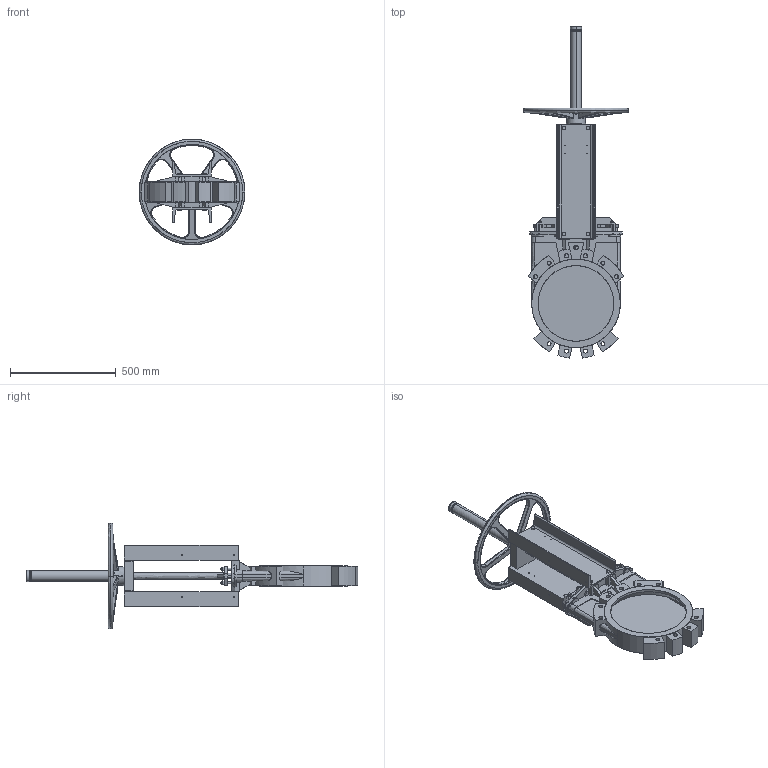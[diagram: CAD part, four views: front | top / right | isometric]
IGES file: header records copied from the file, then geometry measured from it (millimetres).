
Start section: SolidWorks IGES file using analytic representation for surfaces
Global section: file name: D:\part\3D Projects\VG-HANDWHEEL(DN50-600)\VG DN350\VG DN350.IGS; native system: SolidWorks 2009; preprocessor: SolidWorks 2009; author: zhixin.zheng; date: 100128.151125; units: millimetre
Bounding box: 500 x 1571.72 x 500 mm (x, y, z)
Surface area: 2189891.7 mm2 (no closed solid volume)
Topology: 0 solids, 0 shells, 1095 faces, 10922 edges, 10922 vertices
Faces by surface type: bspline 714, revolution 381
